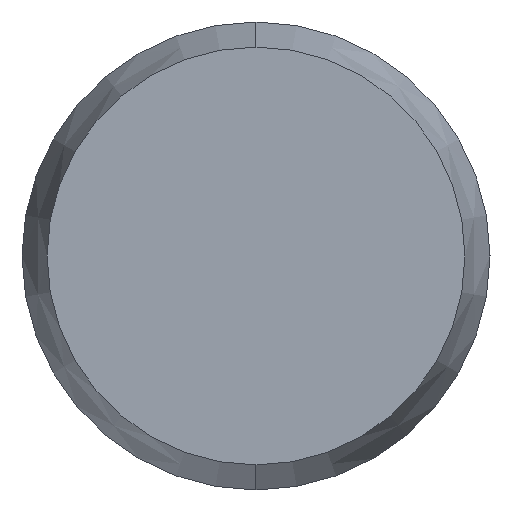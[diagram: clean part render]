
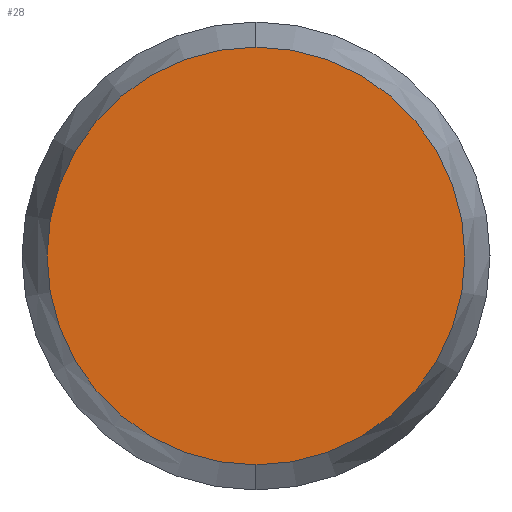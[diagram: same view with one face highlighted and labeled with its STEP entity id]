
A CAD part, left-side view. The second image highlights one B-rep face of the part: STEP entity #28.
In plain terms, the highlighted planar face has unit normal (-1, 0, 0).
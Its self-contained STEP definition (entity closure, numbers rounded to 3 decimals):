
#26 = EDGE_CURVE ( 'NONE', #50, #49, #121, .T. ) ;
#28 = ADVANCED_FACE ( 'NONE', ( #129 ), #117, .F. ) ;
#29 = EDGE_LOOP ( 'NONE', ( #41, #40 ) ) ;
#40 = ORIENTED_EDGE ( 'NONE', *, *, #26, .F. ) ;
#41 = ORIENTED_EDGE ( 'NONE', *, *, #54, .F. ) ;
#49 = VERTEX_POINT ( 'NONE', #155 ) ;
#50 = VERTEX_POINT ( 'NONE', #172 ) ;
#54 = EDGE_CURVE ( 'NONE', #49, #50, #158, .T. ) ;
#89 = DIRECTION ( 'NONE',  ( 0., 0., -1. ) ) ;
#90 = DIRECTION ( 'NONE',  ( 1., 0., 0. ) ) ;
#115 = CARTESIAN_POINT ( 'NONE',  ( -7., 0., 0. ) ) ;
#116 = AXIS2_PLACEMENT_3D ( 'NONE', #115, #90, #89 ) ;
#117 = PLANE ( 'NONE',  #116 ) ;
#121 = CIRCLE ( 'NONE', #126, 0.893 ) ;
#122 = DIRECTION ( 'NONE',  ( 0., 0., -1. ) ) ;
#123 = DIRECTION ( 'NONE',  ( 1., 0., 0. ) ) ;
#124 = CARTESIAN_POINT ( 'NONE',  ( -7., 0., 0. ) ) ;
#126 = AXIS2_PLACEMENT_3D ( 'NONE', #124, #123, #122 ) ;
#129 = FACE_OUTER_BOUND ( 'NONE', #29, .T. ) ;
#149 = DIRECTION ( 'NONE',  ( 0., 0., -1. ) ) ;
#150 = DIRECTION ( 'NONE',  ( 1., 0., 0. ) ) ;
#151 = CARTESIAN_POINT ( 'NONE',  ( -7., 0., 0. ) ) ;
#155 = CARTESIAN_POINT ( 'NONE',  ( -7., 0., 0.893 ) ) ;
#158 = CIRCLE ( 'NONE', #161, 0.893 ) ;
#161 = AXIS2_PLACEMENT_3D ( 'NONE', #151, #150, #149 ) ;
#172 = CARTESIAN_POINT ( 'NONE',  ( -7., 0., -0.893 ) ) ;
